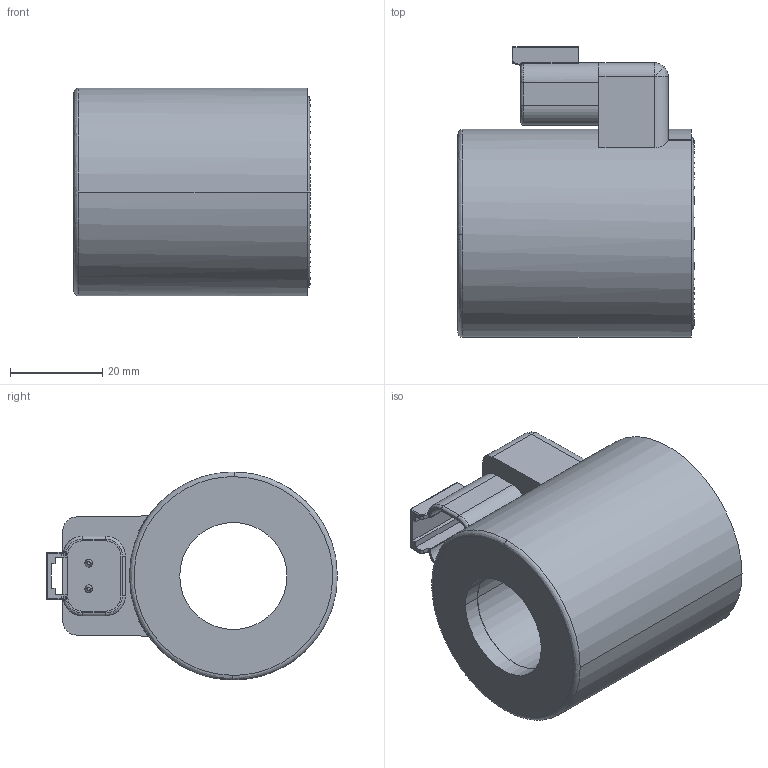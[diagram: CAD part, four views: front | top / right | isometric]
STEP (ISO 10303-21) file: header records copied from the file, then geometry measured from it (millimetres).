
FILE_DESCRIPTION (( 'STEP AP214' ), '1' );
FILE_NAME ('WGE56_23x50.STEP', '2017-03-02T12:42:49', ( '' ), ( '' ), 'SwSTEP 2.0', 'SolidWorks 2016', '' );
FILE_SCHEMA (( 'AUTOMOTIVE_DESIGN' ));
Length unit declared in the file: millimetre
Products named in the file (1): WGE56_23x50
Bounding box: 51.07 x 62.9 x 45 mm (x, y, z)
Surface area: 18266.4 mm2 (no closed solid volume)
Topology: 0 solids, 1 shells, 131 faces, 347 edges, 212 vertices
Faces by surface type: cylinder 55, plane 44, bspline 28, cone 4
Entity records: 5593 total; most frequent: CARTESIAN_POINT 1591, ORIENTED_EDGE 666, DIRECTION 647, EDGE_CURVE 339, AXIS2_PLACEMENT_3D 240, VERTEX_POINT 212, LINE 167, VECTOR 167
